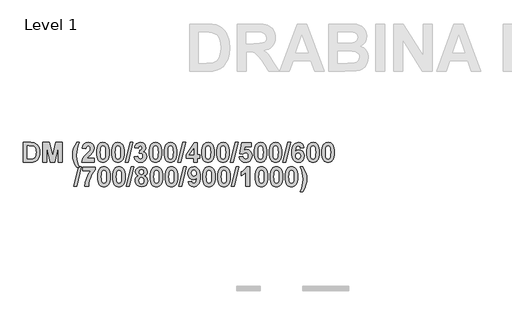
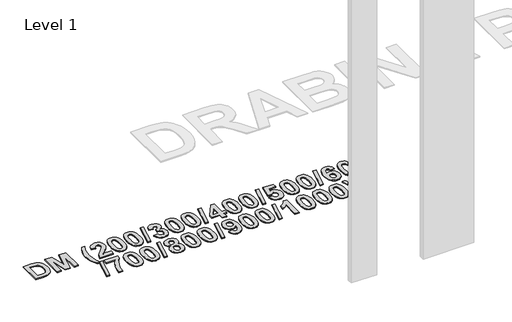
# One storey, part 36 of 42: 1 proxy.
"""IFC4 building model written with IfcOpenShell, lengths in millimetres."""

from ifc_helpers import new_model, si_unit, origin, origin_with_axes, place, context, project, spatial, polyline, outline, extrude, element, save

model = new_model("IFC4")

# Units and contexts
model_context = context("Model", 3, world=origin())
ifc_project = project(units=[si_unit("LENGTHUNIT", "METRE", prefix="MILLI")], contexts=[model_context])

# Site, building, storey
site = spatial("IfcSite", under=ifc_project)
building = spatial("IfcBuilding", under=site)
storey = spatial("IfcBuildingStorey", under=building, Name="Level 1", Elevation=0.0)

# Proxy
placement = place(None, origin())
element("IfcBuildingElementProxy", 1, Name="300mm Arial 2", ObjectType="300mm Arial 2", at=placement, inside=storey, context=model_context, shape_type="SweptSolid", body=[
    extrude(outline(polyline([(30599.2142754, 4855.9798729), (30693.6616516, 4855.9798729), (30721.8124101, 4854.7621154), (30742.3719528, 4851.1088428), (30763.2794263, 4841.9124012), (30780.960633, 4827.6077039), (30795.1071799, 4808.851075), (30805.4106738, 4786.2988381), (30811.6971494, 4758.9941839), (30813.7926412, 4725.9803028), (30811.8315772, 4696.6908619), (30805.9483849, 4671.70311), (30794.2768907, 4646.5255777), (30778.4934879, 4626.6618964), (30762.7100851, 4615.0536623), (30742.1821724, 4606.2921341), (30722.2077859, 4602.2593007), (30696.4450974, 4600.9150229), (30599.2142754, 4600.9150229), (30599.2142754, 4855.9798729)]), holes=[polyline([(30647.7980563, 4811.4447403), (30647.7980563, 4645.4501554), (30689.1701823, 4645.4501554), (30722.6980519, 4647.8540404), (30745.0605084, 4658.260332), (30753.1340827, 4667.9944848), (30759.5787086, 4682.4573323), (30763.8013224, 4702.3526437), (30765.2088603, 4728.3841878), (30763.8013224, 4754.0519861), (30759.5787086, 4772.9825804), (30752.8335971, 4786.8365492), (30743.8585659, 4797.2744709), (30732.4005746, 4804.5810161), (30718.2065826, 4809.0408553), (30672.7225481, 4811.4447403), (30647.7980563, 4811.4447403)])]), origin_with_axes(), (0.0, 0.0, 1.0), 10.0),
    extrude(outline(polyline([(30854.2791254, 4600.9150229), (30854.2791254, 4855.9798729), (30937.5294583, 4855.9798729), (30977.7629019, 4682.0145114), (31017.9963455, 4855.9798729), (31101.2466785, 4855.9798729), (31101.2466785, 4600.9150229), (31052.6628976, 4600.9150229), (31050.6385734, 4801.7026801), (31006.2299611, 4600.9150229), (30949.3591029, 4600.9150229), (30904.8872305, 4801.7026801), (30902.8629063, 4600.9150229), (30854.2791254, 4600.9150229)])), origin_with_axes(), (0.0, 0.0, 1.0), 10.0),
    extrude(outline(polyline([(31323.9223412, 4532.0879999), (31291.5331539, 4532.0879999), (31268.8623043, 4571.7600098), (31252.3435025, 4612.9660779), (31242.261419, 4654.2670363), (31238.9007245, 4694.2237168), (31243.0126331, 4741.6213703), (31255.3483587, 4786.3937283), (31271.5429524, 4822.6734137), (31291.5331539, 4855.9798729), (31323.9223412, 4855.9798729), (31306.3597472, 4808.7403697), (31295.2971317, 4769.1237124), (31289.4376621, 4732.2430558), (31287.4845055, 4693.2115547), (31292.1657552, 4636.562107), (31305.0075619, 4581.4941625), (31323.9223412, 4532.0879999)])), origin_with_axes(), (0.0, 0.0, 1.0), 10.0),
    extrude(outline(polyline([(31518.257465, 4649.4988038), (31518.257465, 4600.9150229), (31356.3115285, 4600.9150229), (31361.4830443, 4625.4204163), (31371.8102607, 4648.5815319), (31390.9938956, 4674.7633188), (31422.7346665, 4708.3307261), (31460.3111846, 4749.0702507), (31467.3330592, 4763.7782313), (31469.6736841, 4778.2964315), (31467.7047125, 4792.4429784), (31461.7977977, 4802.8729925), (31452.4273907, 4809.3018034), (31440.0679425, 4811.4447403), (31427.795477, 4809.3334335), (31418.3064573, 4802.9995128), (31411.917184, 4791.778747), (31408.9439579, 4775.0069046), (31360.3601769, 4779.4351138), (31368.9635548, 4814.5840244), (31376.5864006, 4827.8231838), (31386.4233511, 4838.1721459), (31411.0473572, 4851.5279411), (31441.1433648, 4855.9798729), (31473.2795115, 4850.99023), (31497.6979223, 4836.0213014), (31513.1175793, 4813.6351224), (31518.257465, 4786.3937283), (31512.6273133, 4754.2575815), (31494.7879562, 4722.3112151), (31464.5812435, 4690.4281089), (31436.8416758, 4662.7834314), (31427.7322169, 4649.4988038), (31518.257465, 4649.4988038)])), origin_with_axes(), (0.0, 0.0, 1.0), 10.0),
    extrude(outline(polyline([(31631.6196206, 4855.9798729), (31648.7512549, 4854.3351095), (31663.8981026, 4849.4008192), (31677.0601637, 4841.1770021), (31688.2374382, 4829.6636582), (31698.8928166, 4811.5356768), (31706.5038012, 4788.2757172), (31711.0703919, 4759.8837795), (31712.5925888, 4726.3598635), (31711.0624844, 4692.8675777), (31706.4721711, 4664.4440099), (31698.8216489, 4641.0891601), (31688.1109179, 4622.8030284), (31676.9889961, 4611.4557423), (31663.8664726, 4603.350538), (31648.7433474, 4598.4874153), (31631.6196206, 4596.8663745), (31614.312044, 4598.6455657), (31598.7638898, 4603.9831393), (31584.975158, 4612.8790953), (31572.9458486, 4625.3334336), (31563.1899502, 4642.3543627), (31556.2214514, 4664.9500909), (31552.0403521, 4693.1206182), (31550.6466523, 4726.8659446), (31552.1767567, 4760.1921726), (31556.76707, 4788.4971277), (31564.4175922, 4811.7808098), (31575.1283232, 4830.043219), (31586.250245, 4841.3905051), (31599.3727686, 4849.4957094), (31614.4958937, 4854.358832), (31631.6196206, 4855.9798729)]), holes=[polyline([(31631.6196206, 4811.4447403), (31615.4250269, 4806.0992592), (31609.0990138, 4798.6266562), (31604.417764, 4786.8998093), (31600.527266, 4762.7502542), (31599.2304333, 4726.3598635), (31600.3849307, 4690.4518314), (31603.8484229, 4667.875872), (31609.0752912, 4654.6228745), (31615.5199171, 4646.683728), (31631.6196206, 4641.401507), (31647.8142142, 4646.7469881), (31654.1402274, 4654.2195912), (31658.8214771, 4665.946438), (31662.7119752, 4689.9694729), (31664.0088079, 4726.3598635), (31662.8543105, 4762.2283581), (31659.3908183, 4784.812225), (31654.1639499, 4798.1047601), (31647.719324, 4806.0992592), (31631.6196206, 4811.4447403)])]), origin_with_axes(), (0.0, 0.0, 1.0), 10.0),
    extrude(outline(polyline([(31825.9547444, 4855.9798729), (31843.0863787, 4854.3351095), (31858.2332264, 4849.4008192), (31871.3952875, 4841.1770021), (31882.572562, 4829.6636582), (31893.2279404, 4811.5356768), (31900.838925, 4788.2757172), (31905.4055157, 4759.8837795), (31906.9277126, 4726.3598635), (31905.3976082, 4692.8675777), (31900.8072949, 4664.4440099), (31893.1567727, 4641.0891601), (31882.4460417, 4622.8030284), (31871.3241199, 4611.4557423), (31858.2015964, 4603.350538), (31843.0784712, 4598.4874153), (31825.9547444, 4596.8663745), (31808.6471678, 4598.6455657), (31793.0990136, 4603.9831393), (31779.3102818, 4612.8790953), (31767.2809724, 4625.3334336), (31757.525074, 4642.3543627), (31750.5565752, 4664.9500909), (31746.3754759, 4693.1206182), (31744.9817761, 4726.8659446), (31746.5118805, 4760.1921726), (31751.1021938, 4788.4971277), (31758.752716, 4811.7808098), (31769.463447, 4830.043219), (31780.5853688, 4841.3905051), (31793.7078924, 4849.4957094), (31808.8310175, 4854.358832), (31825.9547444, 4855.9798729)]), holes=[polyline([(31825.9547444, 4811.4447403), (31809.7601507, 4806.0992592), (31803.4341376, 4798.6266562), (31798.7528878, 4786.8998093), (31794.8623898, 4762.7502542), (31793.5655571, 4726.3598635), (31794.7200545, 4690.4518314), (31798.1835467, 4667.875872), (31803.410415, 4654.6228745), (31809.8550409, 4646.683728), (31825.9547444, 4641.401507), (31842.149338, 4646.7469881), (31848.4753512, 4654.2195912), (31853.1566009, 4665.946438), (31857.047099, 4689.9694729), (31858.3439317, 4726.3598635), (31857.1894343, 4762.2283581), (31853.7259421, 4784.812225), (31848.4990737, 4798.1047601), (31842.0544478, 4806.0992592), (31825.9547444, 4811.4447403)])]), origin_with_axes(), (0.0, 0.0, 1.0), 10.0),
    extrude(outline(polyline([(31922.2366644, 4600.9150229), (31982.9663906, 4855.9798729), (32020.2898682, 4855.9798729), (31959.560142, 4600.9150229), (31922.2366644, 4600.9150229)])), origin_with_axes(), (0.0, 0.0, 1.0), 10.0),
    extrude(outline(polyline([(32036.4844618, 4672.209191), (32085.0682428, 4677.8393427), (32088.8164055, 4662.2140903), (32096.0122455, 4650.7640065), (32105.865011, 4643.7421319), (32117.5839503, 4641.401507), (32130.1569014, 4644.0821551), (32140.547378, 4652.1240993), (32147.5218075, 4664.7049579), (32149.8466174, 4681.0023493), (32147.7194954, 4696.4220063), (32141.3381297, 4708.267466), (32131.8886475, 4715.8112366), (32120.5571765, 4718.3258269), (32101.2628364, 4714.7199994), (32105.5012652, 4754.7636626), (32119.3315115, 4756.5033162), (32129.445225, 4762.7344391), (32135.6368103, 4772.6030196), (32137.7006721, 4785.2550459), (32136.1587064, 4796.0013608), (32131.5328093, 4804.3279756), (32124.3448769, 4809.6655491), (32115.1168052, 4811.4447403), (32105.7305832, 4809.3808786), (32097.8151592, 4803.1892932), (32092.0505798, 4793.0281346), (32089.1168912, 4779.055553), (32040.5331102, 4786.3304682), (32046.0920943, 4808.0682308), (32053.912628, 4824.9507784), (32064.6352203, 4837.8637527), (32078.9003799, 4847.6927957), (32095.8936328, 4853.9081036), (32114.8005045, 4855.9798729), (32145.4500382, 4850.239016), (32158.2364923, 4843.0629448), (32169.3307378, 4833.0164452), (32182.0460243, 4812.9946136), (32186.2844531, 4790.5056368), (32184.0110421, 4774.56013), (32177.1908092, 4760.3147391), (32165.8237543, 4747.7694643), (32149.9098775, 4736.9243055), (32169.7735588, 4729.3726273), (32185.2090308, 4716.0800922), (32195.1250564, 4698.2170126), (32198.4303983, 4676.9537009), (32192.5709286, 4646.1855545), (32174.9925196, 4620.3042532), (32162.5559731, 4610.0501812), (32148.6842124, 4602.7258442), (32116.6350484, 4596.8663745), (32086.372983, 4602.0774278), (32061.7568843, 4617.7105878), (32044.5422211, 4641.7573453), (32036.4844618, 4672.209191)])), origin_with_axes(), (0.0, 0.0, 1.0), 10.0),
    extrude(outline(polyline([(32311.7925539, 4855.9798729), (32328.9241882, 4854.3351095), (32344.0710359, 4849.4008192), (32357.233097, 4841.1770021), (32368.4103715, 4829.6636582), (32379.0657499, 4811.5356768), (32386.6767345, 4788.2757172), (32391.2433252, 4759.8837795), (32392.7655221, 4726.3598635), (32391.2354177, 4692.8675777), (32386.6451044, 4664.4440099), (32378.9945822, 4641.0891601), (32368.2838512, 4622.8030284), (32357.1619294, 4611.4557423), (32344.0394059, 4603.350538), (32328.9162807, 4598.4874153), (32311.7925539, 4596.8663745), (32294.4849773, 4598.6455657), (32278.9368231, 4603.9831393), (32265.1480913, 4612.8790953), (32253.1187819, 4625.3334336), (32243.3628836, 4642.3543627), (32236.3943847, 4664.9500909), (32232.2132854, 4693.1206182), (32230.8195856, 4726.8659446), (32232.34969, 4760.1921726), (32236.9400033, 4788.4971277), (32244.5905255, 4811.7808098), (32255.3012565, 4830.043219), (32266.4231783, 4841.3905051), (32279.5457019, 4849.4957094), (32294.668827, 4854.358832), (32311.7925539, 4855.9798729)]), holes=[polyline([(32311.7925539, 4811.4447403), (32295.5979602, 4806.0992592), (32289.2719471, 4798.6266562), (32284.5906973, 4786.8998093), (32280.7001993, 4762.7502542), (32279.4033666, 4726.3598635), (32280.557864, 4690.4518314), (32284.0213562, 4667.875872), (32289.2482245, 4654.6228745), (32295.6928504, 4646.683728), (32311.7925539, 4641.401507), (32327.9871475, 4646.7469881), (32334.3131607, 4654.2195912), (32338.9944104, 4665.946438), (32342.8849085, 4689.9694729), (32344.1817412, 4726.3598635), (32343.0272438, 4762.2283581), (32339.5637516, 4784.812225), (32334.3368832, 4798.1047601), (32327.8922573, 4806.0992592), (32311.7925539, 4811.4447403)])]), origin_with_axes(), (0.0, 0.0, 1.0), 10.0),
    extrude(outline(polyline([(32506.1276777, 4855.9798729), (32523.259312, 4854.3351095), (32538.4061597, 4849.4008192), (32551.5682208, 4841.1770021), (32562.7454953, 4829.6636582), (32573.4008737, 4811.5356768), (32581.0118583, 4788.2757172), (32585.578449, 4759.8837795), (32587.1006459, 4726.3598635), (32585.5705415, 4692.8675777), (32580.9802282, 4664.4440099), (32573.3297061, 4641.0891601), (32562.618975, 4622.8030284), (32551.4970532, 4611.4557423), (32538.3745297, 4603.350538), (32523.2514045, 4598.4874153), (32506.1276777, 4596.8663745), (32488.8201011, 4598.6455657), (32473.2719469, 4603.9831393), (32459.4832151, 4612.8790953), (32447.4539057, 4625.3334336), (32437.6980074, 4642.3543627), (32430.7295085, 4664.9500909), (32426.5484092, 4693.1206182), (32425.1547094, 4726.8659446), (32426.6848138, 4760.1921726), (32431.2751271, 4788.4971277), (32438.9256493, 4811.7808098), (32449.6363803, 4830.043219), (32460.7583021, 4841.3905051), (32473.8808257, 4849.4957094), (32489.0039508, 4854.358832), (32506.1276777, 4855.9798729)]), holes=[polyline([(32506.1276777, 4811.4447403), (32489.933084, 4806.0992592), (32483.6070709, 4798.6266562), (32478.9258211, 4786.8998093), (32475.0353231, 4762.7502542), (32473.7384904, 4726.3598635), (32474.8929878, 4690.4518314), (32478.35648, 4667.875872), (32483.5833483, 4654.6228745), (32490.0279742, 4646.683728), (32506.1276777, 4641.401507), (32522.3222713, 4646.7469881), (32528.6482845, 4654.2195912), (32533.3295342, 4665.946438), (32537.2200323, 4689.9694729), (32538.516865, 4726.3598635), (32537.3623676, 4762.2283581), (32533.8988754, 4784.812225), (32528.672007, 4798.1047601), (32522.2273811, 4806.0992592), (32506.1276777, 4811.4447403)])]), origin_with_axes(), (0.0, 0.0, 1.0), 10.0),
    extrude(outline(polyline([(32602.4095977, 4600.9150229), (32663.1393239, 4855.9798729), (32700.4628015, 4855.9798729), (32639.7330753, 4600.9150229), (32602.4095977, 4600.9150229)])), origin_with_axes(), (0.0, 0.0, 1.0), 10.0),
    extrude(outline(polyline([(32805.7276602, 4600.9150229), (32805.7276602, 4653.5474523), (32708.5600983, 4653.5474523), (32708.5600983, 4693.844156), (32812.1801936, 4851.9312245), (32854.3114411, 4851.9312245), (32854.3114411, 4694.0339364), (32886.7006284, 4694.0339364), (32886.7006284, 4653.5474523), (32854.3114411, 4653.5474523), (32854.3114411, 4600.9150229), (32805.7276602, 4600.9150229)]), holes=[polyline([(32805.7276602, 4694.0339364), (32805.7276602, 4776.9047086), (32751.4504674, 4694.0339364), (32805.7276602, 4694.0339364)])]), origin_with_axes(), (0.0, 0.0, 1.0), 10.0),
    extrude(outline(polyline([(32991.9654872, 4855.9798729), (33009.0971215, 4854.3351095), (33024.2439692, 4849.4008192), (33037.4060303, 4841.1770021), (33048.5833048, 4829.6636582), (33059.2386832, 4811.5356768), (33066.8496678, 4788.2757172), (33071.4162585, 4759.8837795), (33072.9384554, 4726.3598635), (33071.408351, 4692.8675777), (33066.8180377, 4664.4440099), (33059.1675156, 4641.0891601), (33048.4567845, 4622.8030284), (33037.3348627, 4611.4557423), (33024.2123392, 4603.350538), (33009.089214, 4598.4874153), (32991.9654872, 4596.8663745), (32974.6579106, 4598.6455657), (32959.1097564, 4603.9831393), (32945.3210246, 4612.8790953), (32933.2917153, 4625.3334336), (32923.5358169, 4642.3543627), (32916.567318, 4664.9500909), (32912.3862187, 4693.1206182), (32910.9925189, 4726.8659446), (32912.5226233, 4760.1921726), (32917.1129366, 4788.4971277), (32924.7634588, 4811.7808098), (32935.4741898, 4830.043219), (32946.5961116, 4841.3905051), (32959.7186352, 4849.4957094), (32974.8417603, 4854.358832), (32991.9654872, 4855.9798729)]), holes=[polyline([(32991.9654872, 4811.4447403), (32975.7708935, 4806.0992592), (32969.4448804, 4798.6266562), (32964.7636306, 4786.8998093), (32960.8731326, 4762.7502542), (32959.5762999, 4726.3598635), (32960.7307973, 4690.4518314), (32964.1942895, 4667.875872), (32969.4211578, 4654.6228745), (32975.8657837, 4646.683728), (32991.9654872, 4641.401507), (33008.1600808, 4646.7469881), (33014.486094, 4654.2195912), (33019.1673437, 4665.946438), (33023.0578418, 4689.9694729), (33024.3546745, 4726.3598635), (33023.2001771, 4762.2283581), (33019.7366849, 4784.812225), (33014.5098165, 4798.1047601), (33008.0651906, 4806.0992592), (32991.9654872, 4811.4447403)])]), origin_with_axes(), (0.0, 0.0, 1.0), 10.0),
    extrude(outline(polyline([(33186.300611, 4855.9798729), (33203.4322453, 4854.3351095), (33218.579093, 4849.4008192), (33231.7411541, 4841.1770021), (33242.9184286, 4829.6636582), (33253.573807, 4811.5356768), (33261.1847916, 4788.2757172), (33265.7513823, 4759.8837795), (33267.2735792, 4726.3598635), (33265.7434748, 4692.8675777), (33261.1531615, 4664.4440099), (33253.5026394, 4641.0891601), (33242.7919083, 4622.8030284), (33231.6699865, 4611.4557423), (33218.547463, 4603.350538), (33203.4243378, 4598.4874153), (33186.300611, 4596.8663745), (33168.9930344, 4598.6455657), (33153.4448802, 4603.9831393), (33139.6561484, 4612.8790953), (33127.6268391, 4625.3334336), (33117.8709407, 4642.3543627), (33110.9024418, 4664.9500909), (33106.7213425, 4693.1206182), (33105.3276427, 4726.8659446), (33106.8577471, 4760.1921726), (33111.4480604, 4788.4971277), (33119.0985826, 4811.7808098), (33129.8093136, 4830.043219), (33140.9312354, 4841.3905051), (33154.053759, 4849.4957094), (33169.1768841, 4854.358832), (33186.300611, 4855.9798729)]), holes=[polyline([(33186.300611, 4811.4447403), (33170.1060173, 4806.0992592), (33163.7800042, 4798.6266562), (33159.0987544, 4786.8998093), (33155.2082564, 4762.7502542), (33153.9114237, 4726.3598635), (33155.0659211, 4690.4518314), (33158.5294133, 4667.875872), (33163.7562816, 4654.6228745), (33170.2009075, 4646.683728), (33186.300611, 4641.401507), (33202.4952046, 4646.7469881), (33208.8212178, 4654.2195912), (33213.5024675, 4665.946438), (33217.3929656, 4689.9694729), (33218.6897983, 4726.3598635), (33217.5353009, 4762.2283581), (33214.0718087, 4784.812225), (33208.8449403, 4798.1047601), (33202.4003144, 4806.0992592), (33186.300611, 4811.4447403)])]), origin_with_axes(), (0.0, 0.0, 1.0), 10.0),
    extrude(outline(polyline([(33282.582531, 4600.9150229), (33343.3122572, 4855.9798729), (33380.6357348, 4855.9798729), (33319.9060086, 4600.9150229), (33282.582531, 4600.9150229)])), origin_with_axes(), (0.0, 0.0, 1.0), 10.0),
    extrude(outline(polyline([(33396.8303284, 4672.7152721), (33441.365461, 4677.8393427), (33445.5089996, 4662.7676164), (33453.7644467, 4651.2068274), (33464.8665998, 4643.8528371), (33477.5502561, 4641.401507), (33491.7442481, 4644.0030799), (33503.5818002, 4651.8077986), (33511.5762993, 4664.8472932), (33514.2411324, 4683.1531938), (33511.7660797, 4700.3125044), (33504.3409218, 4712.5691549), (33492.9461906, 4719.9231452), (33478.5624182, 4722.3744753), (33459.7425291, 4717.3136648), (33443.0102244, 4702.1312332), (33400.8789768, 4708.3939862), (33429.2195157, 4851.9312245), (33550.6789681, 4851.9312245), (33550.6789681, 4803.3474435), (33468.5040573, 4803.3474435), (33458.698737, 4756.9777672), (33474.1816541, 4764.4266476), (33490.012502, 4766.9096078), (33518.1316305, 4761.1608434), (33541.6327693, 4743.91455), (33557.5268773, 4717.4955376), (33562.8249133, 4684.228616), (33558.4125192, 4655.3029209), (33545.1753367, 4629.6351226), (33531.9579229, 4615.2987953), (33516.4077919, 4605.0585615), (33498.5249435, 4598.9144212), (33478.3093777, 4596.8663745), (33447.3040058, 4602.0062602), (33422.608832, 4617.4259172), (33405.3941687, 4641.5280273), (33396.8303284, 4672.7152721)])), origin_with_axes(), (0.0, 0.0, 1.0), 10.0),
    extrude(outline(polyline([(33672.1384205, 4855.9798729), (33689.2700548, 4854.3351095), (33704.4169025, 4849.4008192), (33717.5789636, 4841.1770021), (33728.7562381, 4829.6636582), (33739.4116165, 4811.5356768), (33747.0226011, 4788.2757172), (33751.5891918, 4759.8837795), (33753.1113887, 4726.3598635), (33751.5812843, 4692.8675777), (33746.990971, 4664.4440099), (33739.3404489, 4641.0891601), (33728.6297179, 4622.8030284), (33717.507796, 4611.4557423), (33704.3852725, 4603.350538), (33689.2621473, 4598.4874153), (33672.1384205, 4596.8663745), (33654.8308439, 4598.6455657), (33639.2826897, 4603.9831393), (33625.4939579, 4612.8790953), (33613.4646486, 4625.3334336), (33603.7087502, 4642.3543627), (33596.7402513, 4664.9500909), (33592.559152, 4693.1206182), (33591.1654522, 4726.8659446), (33592.6955567, 4760.1921726), (33597.2858699, 4788.4971277), (33604.9363921, 4811.7808098), (33615.6471231, 4830.043219), (33626.769045, 4841.3905051), (33639.8915685, 4849.4957094), (33655.0146936, 4854.358832), (33672.1384205, 4855.9798729)]), holes=[polyline([(33672.1384205, 4811.4447403), (33655.9438268, 4806.0992592), (33649.6178137, 4798.6266562), (33644.936564, 4786.8998093), (33641.0460659, 4762.7502542), (33639.7492332, 4726.3598635), (33640.9037306, 4690.4518314), (33644.3672228, 4667.875872), (33649.5940911, 4654.6228745), (33656.038717, 4646.683728), (33672.1384205, 4641.401507), (33688.3330141, 4646.7469881), (33694.6590273, 4654.2195912), (33699.340277, 4665.946438), (33703.2307751, 4689.9694729), (33704.5276078, 4726.3598635), (33703.3731104, 4762.2283581), (33699.9096182, 4784.812225), (33694.6827498, 4798.1047601), (33688.2381239, 4806.0992592), (33672.1384205, 4811.4447403)])]), origin_with_axes(), (0.0, 0.0, 1.0), 10.0),
    extrude(outline(polyline([(33866.4735443, 4855.9798729), (33883.6051786, 4854.3351095), (33898.7520263, 4849.4008192), (33911.9140874, 4841.1770021), (33923.0913619, 4829.6636582), (33933.7467403, 4811.5356768), (33941.3577249, 4788.2757172), (33945.9243156, 4759.8837795), (33947.4465125, 4726.3598635), (33945.9164081, 4692.8675777), (33941.3260948, 4664.4440099), (33933.6755727, 4641.0891601), (33922.9648417, 4622.8030284), (33911.8429198, 4611.4557423), (33898.7203963, 4603.350538), (33883.5972711, 4598.4874153), (33866.4735443, 4596.8663745), (33849.1659677, 4598.6455657), (33833.6178135, 4603.9831393), (33819.8290817, 4612.8790953), (33807.7997724, 4625.3334336), (33798.043874, 4642.3543627), (33791.0753751, 4664.9500909), (33786.8942758, 4693.1206182), (33785.500576, 4726.8659446), (33787.0306805, 4760.1921726), (33791.6209937, 4788.4971277), (33799.2715159, 4811.7808098), (33809.9822469, 4830.043219), (33821.1041688, 4841.3905051), (33834.2266923, 4849.4957094), (33849.3498174, 4854.358832), (33866.4735443, 4855.9798729)]), holes=[polyline([(33866.4735443, 4811.4447403), (33850.2789506, 4806.0992592), (33843.9529375, 4798.6266562), (33839.2716878, 4786.8998093), (33835.3811897, 4762.7502542), (33834.084357, 4726.3598635), (33835.2388544, 4690.4518314), (33838.7023466, 4667.875872), (33843.9292149, 4654.6228745), (33850.3738408, 4646.683728), (33866.4735443, 4641.401507), (33882.6681379, 4646.7469881), (33888.9941511, 4654.2195912), (33893.6754008, 4665.946438), (33897.5658989, 4689.9694729), (33898.8627316, 4726.3598635), (33897.7082342, 4762.2283581), (33894.244742, 4784.812225), (33889.0178736, 4798.1047601), (33882.5732477, 4806.0992592), (33866.4735443, 4811.4447403)])]), origin_with_axes(), (0.0, 0.0, 1.0), 10.0),
    extrude(outline(polyline([(33962.7554643, 4600.9150229), (34023.4851905, 4855.9798729), (34060.8086681, 4855.9798729), (34000.0789419, 4600.9150229), (33962.7554643, 4600.9150229)])), origin_with_axes(), (0.0, 0.0, 1.0), 10.0),
    extrude(outline(polyline([(34234.9005498, 4788.2915322), (34186.3167689, 4783.1042015), (34183.3435427, 4795.7008751), (34177.713391, 4804.517756), (34169.7109844, 4809.7129942), (34159.6209934, 4811.4447403), (34146.0200651, 4808.0840459), (34134.6965016, 4798.0019624), (34126.3936094, 4777.1656566), (34121.8546949, 4741.5422951), (34141.8765265, 4757.5312933), (34166.2633072, 4762.8609594), (34194.0898575, 4757.1675476), (34217.5989039, 4740.0873121), (34233.6116246, 4714.0083229), (34238.9491982, 4681.31865), (34233.4930119, 4646.8814159), (34226.672779, 4632.4917129), (34217.1244529, 4619.9879525), (34205.4331898, 4609.8722621), (34192.1841461, 4602.646769), (34161.0127163, 4596.8663745), (34143.4817524, 4598.7325484), (34127.5797368, 4604.33107), (34113.3066697, 4613.6619394), (34100.6625509, 4626.7251565), (34090.3116119, 4644.0386637), (34082.918084, 4666.1204034), (34078.4819673, 4692.9703754), (34077.0032617, 4724.5885799), (34078.5472043, 4757.0410273), (34083.1790321, 4784.6224446), (34090.898745, 4807.3328318), (34101.7063431, 4825.1721889), (34114.9810863, 4838.6505506), (34130.1022346, 4848.2779519), (34147.0697879, 4854.0543926), (34165.8837464, 4855.9798729), (34191.203614, 4851.6465539), (34211.7473417, 4838.6465969), (34226.6134726, 4817.3911927), (34234.9005498, 4788.2915322)]), holes=[polyline([(34125.5870427, 4682.3940722), (34128.2123381, 4664.9738135), (34136.0882245, 4652.0608392), (34147.3327129, 4644.0663401), (34160.0638143, 4641.401507), (34171.956719, 4643.5839816), (34181.6987793, 4650.1314052), (34188.1987578, 4661.6605641), (34190.3654173, 4678.7882447), (34188.0326999, 4696.5406191), (34181.0345479, 4708.8051771), (34170.5412736, 4715.9456644), (34157.7231894, 4718.3258269), (34145.2846661, 4716.0484621), (34134.9179121, 4709.2163679), (34127.91976, 4697.9560645), (34125.5870427, 4682.3940722)])]), origin_with_axes(), (0.0, 0.0, 1.0), 10.0),
    extrude(outline(polyline([(34352.3113538, 4855.9798729), (34369.4429881, 4854.3351095), (34384.5898358, 4849.4008192), (34397.7518969, 4841.1770021), (34408.9291714, 4829.6636582), (34419.5845498, 4811.5356768), (34427.1955344, 4788.2757172), (34431.7621251, 4759.8837795), (34433.284322, 4726.3598635), (34431.7542176, 4692.8675777), (34427.1639043, 4664.4440099), (34419.5133822, 4641.0891601), (34408.8026512, 4622.8030284), (34397.6807293, 4611.4557423), (34384.5582058, 4603.350538), (34369.4350806, 4598.4874153), (34352.3113538, 4596.8663745), (34335.0037772, 4598.6455657), (34319.455623, 4603.9831393), (34305.6668912, 4612.8790953), (34293.6375819, 4625.3334336), (34283.8816835, 4642.3543627), (34276.9131846, 4664.9500909), (34272.7320853, 4693.1206182), (34271.3383855, 4726.8659446), (34272.86849, 4760.1921726), (34277.4588032, 4788.4971277), (34285.1093254, 4811.7808098), (34295.8200564, 4830.043219), (34306.9419783, 4841.3905051), (34320.0645018, 4849.4957094), (34335.1876269, 4854.358832), (34352.3113538, 4855.9798729)]), holes=[polyline([(34352.3113538, 4811.4447403), (34336.1167601, 4806.0992592), (34329.790747, 4798.6266562), (34325.1094973, 4786.8998093), (34321.2189992, 4762.7502542), (34319.9221665, 4726.3598635), (34321.0766639, 4690.4518314), (34324.5401561, 4667.875872), (34329.7670244, 4654.6228745), (34336.2116503, 4646.683728), (34352.3113538, 4641.401507), (34368.5059474, 4646.7469881), (34374.8319606, 4654.2195912), (34379.5132103, 4665.946438), (34383.4037084, 4689.9694729), (34384.7005411, 4726.3598635), (34383.5460437, 4762.2283581), (34380.0825515, 4784.812225), (34374.8556831, 4798.1047601), (34368.4110572, 4806.0992592), (34352.3113538, 4811.4447403)])]), origin_with_axes(), (0.0, 0.0, 1.0), 10.0),
    extrude(outline(polyline([(34546.6464776, 4855.9798729), (34563.7781119, 4854.3351095), (34578.9249596, 4849.4008192), (34592.0870207, 4841.1770021), (34603.2642952, 4829.6636582), (34613.9196736, 4811.5356768), (34621.5306582, 4788.2757172), (34626.0972489, 4759.8837795), (34627.6194458, 4726.3598635), (34626.0893414, 4692.8675777), (34621.4990281, 4664.4440099), (34613.848506, 4641.0891601), (34603.137775, 4622.8030284), (34592.0158531, 4611.4557423), (34578.8933296, 4603.350538), (34563.7702044, 4598.4874153), (34546.6464776, 4596.8663745), (34529.338901, 4598.6455657), (34513.7907468, 4603.9831393), (34500.002015, 4612.8790953), (34487.9727057, 4625.3334336), (34478.2168073, 4642.3543627), (34471.2483084, 4664.9500909), (34467.0672091, 4693.1206182), (34465.6735093, 4726.8659446), (34467.2036138, 4760.1921726), (34471.793927, 4788.4971277), (34479.4444492, 4811.7808098), (34490.1551802, 4830.043219), (34501.2771021, 4841.3905051), (34514.3996256, 4849.4957094), (34529.5227507, 4854.358832), (34546.6464776, 4855.9798729)]), holes=[polyline([(34546.6464776, 4811.4447403), (34530.4518839, 4806.0992592), (34524.1258708, 4798.6266562), (34519.4446211, 4786.8998093), (34515.554123, 4762.7502542), (34514.2572903, 4726.3598635), (34515.4117877, 4690.4518314), (34518.8752799, 4667.875872), (34524.1021482, 4654.6228745), (34530.5467741, 4646.683728), (34546.6464776, 4641.401507), (34562.8410712, 4646.7469881), (34569.1670844, 4654.2195912), (34573.8483341, 4665.946438), (34577.7388322, 4689.9694729), (34579.0356649, 4726.3598635), (34577.8811675, 4762.2283581), (34574.4176753, 4784.812225), (34569.1908069, 4798.1047601), (34562.746181, 4806.0992592), (34546.6464776, 4811.4447403)])]), origin_with_axes(), (0.0, 0.0, 1.0), 10.0),
    extrude(outline(polyline([(31254.2096764, 4286.1366483), (31314.9394025, 4541.2014983), (31352.2628801, 4541.2014983), (31291.5331539, 4286.1366483), (31254.2096764, 4286.1366483)])), origin_with_axes(), (0.0, 0.0, 1.0), 10.0),
    extrude(outline(polyline([(31368.4574737, 4488.5690689), (31368.4574737, 4537.1528499), (31530.4034102, 4537.1528499), (31530.4034102, 4500.7150142), (31509.7252548, 4476.075193), (31488.6833536, 4442.6422135), (31469.9820772, 4403.6265274), (31456.3257963, 4362.2385864), (31448.0229041, 4321.9260677), (31445.3817936, 4286.1366483), (31396.7980126, 4286.1366483), (31402.973783, 4338.5872048), (31418.9706887, 4392.0657384), (31443.397007, 4443.1878321), (31474.8610148, 4488.5690689), (31368.4574737, 4488.5690689)])), origin_with_axes(), (0.0, 0.0, 1.0), 10.0),
    extrude(outline(polyline([(31643.7655658, 4541.2014983), (31660.8972001, 4539.5567349), (31676.0440479, 4534.6224446), (31689.206109, 4526.3986275), (31700.3833834, 4514.8852836), (31711.0387618, 4496.7573022), (31718.6497464, 4473.4973426), (31723.2163371, 4445.1054049), (31724.738534, 4411.5814889), (31723.2084296, 4378.0892031), (31718.6181163, 4349.6656353), (31710.9675942, 4326.3107855), (31700.2568632, 4308.0246538), (31689.1349413, 4296.6773677), (31676.0124178, 4288.5721634), (31660.8892926, 4283.7090407), (31643.7655658, 4282.0879999), (31626.4579892, 4283.8671911), (31610.909835, 4289.2047647), (31597.1211032, 4298.1007207), (31585.0917939, 4310.555059), (31575.3358955, 4327.5759881), (31568.3673966, 4350.1717163), (31564.1862973, 4378.3422436), (31562.7925975, 4412.08757), (31564.322702, 4445.413798), (31568.9130153, 4473.7187531), (31576.5635374, 4497.0024352), (31587.2742684, 4515.2648444), (31598.3961903, 4526.6121305), (31611.5187138, 4534.7173348), (31626.641839, 4539.5804574), (31643.7655658, 4541.2014983)]), holes=[polyline([(31643.7655658, 4496.6663657), (31627.5709721, 4491.3208846), (31621.244959, 4483.8482816), (31616.5637093, 4472.1214347), (31612.6732112, 4447.9718796), (31611.3763785, 4411.5814889), (31612.5308759, 4375.6734568), (31615.9943681, 4353.0974974), (31621.2212365, 4339.8444999), (31627.6658623, 4331.9053534), (31643.7655658, 4326.6231324), (31659.9601594, 4331.9686135), (31666.2861726, 4339.4412166), (31670.9674223, 4351.1680634), (31674.8579204, 4375.1910983), (31676.1547531, 4411.5814889), (31675.0002557, 4447.4499835), (31671.5367635, 4470.0338504), (31666.3098951, 4483.3263855), (31659.8652692, 4491.3208846), (31643.7655658, 4496.6663657)])]), origin_with_axes(), (0.0, 0.0, 1.0), 10.0),
    extrude(outline(polyline([(31838.1006896, 4541.2014983), (31855.2323239, 4539.5567349), (31870.3791717, 4534.6224446), (31883.5412328, 4526.3986275), (31894.7185072, 4514.8852836), (31905.3738856, 4496.7573022), (31912.9848702, 4473.4973426), (31917.5514609, 4445.1054049), (31919.0736578, 4411.5814889), (31917.5435534, 4378.0892031), (31912.9532401, 4349.6656353), (31905.302718, 4326.3107855), (31894.591987, 4308.0246538), (31883.4700651, 4296.6773677), (31870.3475416, 4288.5721634), (31855.2244164, 4283.7090407), (31838.1006896, 4282.0879999), (31820.793113, 4283.8671911), (31805.2449588, 4289.2047647), (31791.4562271, 4298.1007207), (31779.4269177, 4310.555059), (31769.6710193, 4327.5759881), (31762.7025204, 4350.1717163), (31758.5214211, 4378.3422436), (31757.1277213, 4412.08757), (31758.6578258, 4445.413798), (31763.2481391, 4473.7187531), (31770.8986612, 4497.0024352), (31781.6093922, 4515.2648444), (31792.7313141, 4526.6121305), (31805.8538376, 4534.7173348), (31820.9769628, 4539.5804574), (31838.1006896, 4541.2014983)]), holes=[polyline([(31838.1006896, 4496.6663657), (31821.9060959, 4491.3208846), (31815.5800828, 4483.8482816), (31810.8988331, 4472.1214347), (31807.008335, 4447.9718796), (31805.7115023, 4411.5814889), (31806.8659997, 4375.6734568), (31810.3294919, 4353.0974974), (31815.5563603, 4339.8444999), (31822.0009861, 4331.9053534), (31838.1006896, 4326.6231324), (31854.2952832, 4331.9686135), (31860.6212964, 4339.4412166), (31865.3025461, 4351.1680634), (31869.1930442, 4375.1910983), (31870.4898769, 4411.5814889), (31869.3353795, 4447.4499835), (31865.8718873, 4470.0338504), (31860.6450189, 4483.3263855), (31854.200393, 4491.3208846), (31838.1006896, 4496.6663657)])]), origin_with_axes(), (0.0, 0.0, 1.0), 10.0),
    extrude(outline(polyline([(31934.3826097, 4286.1366483), (31995.1123358, 4541.2014983), (32032.4358134, 4541.2014983), (31971.7060872, 4286.1366483), (31934.3826097, 4286.1366483)])), origin_with_axes(), (0.0, 0.0, 1.0), 10.0),
    extrude(outline(polyline([(32091.2677356, 4422.9683126), (32073.7921243, 4432.4415173), (32061.8517745, 4444.9195782), (32054.9722352, 4459.5801137), (32052.6790555, 4475.600742), (32057.6845134, 4501.5927485), (32072.7008871, 4522.6346497), (32096.9374249, 4536.5597861), (32129.6033753, 4541.2014983), (32162.0716378, 4536.5597861), (32186.3477132, 4522.6346497), (32201.4826997, 4501.5927485), (32206.5276951, 4475.600742), (32203.9735673, 4458.8605297), (32196.3111839, 4444.0655664), (32184.0149959, 4431.8800836), (32167.5594542, 4422.9683126), (32186.1025802, 4412.562021), (32199.6007107, 4398.2968613), (32207.8324353, 4380.8528801), (32210.5763435, 4360.9101237), (32205.1359722, 4329.1535377), (32198.3355081, 4315.7423898), (32188.8148583, 4303.9760054), (32177.0366126, 4294.400003), (32163.4633607, 4287.5600012), (32130.9318381, 4282.0879999), (32100.1557841, 4286.6110993), (32075.0098819, 4300.1803975), (32063.4688616, 4311.863753), (32055.2252758, 4325.5318951), (32050.2791242, 4341.1848239), (32048.630407, 4358.8225393), (32051.2003499, 4378.4885327), (32058.9101784, 4396.4939476), (32072.1394534, 4411.7001017), (32091.2677356, 4422.9683126)]), holes=[polyline([(32101.2628364, 4472.6275158), (32103.1843629, 4458.9396049), (32108.9489424, 4448.6202959), (32117.9081585, 4442.14404), (32129.4135949, 4439.985288), (32141.0850892, 4442.1677625), (32150.162918, 4448.7151861), (32155.9986651, 4459.1056627), (32157.9439142, 4472.8172962), (32156.0223877, 4485.8646983), (32150.2578082, 4496.0337644), (32141.3302222, 4502.581188), (32129.919676, 4504.7636626), (32118.1532915, 4502.565373), (32109.0438326, 4495.9705043), (32103.2080855, 4485.738178), (32101.2628364, 4472.6275158)]), polyline([(32097.214188, 4362.9344479), (32099.5706279, 4344.2964316), (32106.6399476, 4330.26059), (32117.2360196, 4321.4595242), (32130.1727165, 4318.5258356), (32142.7693902, 4321.348819), (32152.9779939, 4329.8177691), (32159.7389204, 4343.6005702), (32161.9925626, 4362.3651067), (32159.6993828, 4379.136949), (32152.8198435, 4392.2555188), (32142.4135519, 4400.7244689), (32129.5401152, 4403.5474523), (32115.2986781, 4400.3449081), (32105.2165946, 4390.7372756), (32099.2147897, 4377.3814804), (32097.214188, 4362.9344479)])]), origin_with_axes(), (0.0, 0.0, 1.0), 10.0),
    extrude(outline(polyline([(32323.9384991, 4541.2014983), (32341.0701334, 4539.5567349), (32356.2169812, 4534.6224446), (32369.3790423, 4526.3986275), (32380.5563167, 4514.8852836), (32391.2116951, 4496.7573022), (32398.8226797, 4473.4973426), (32403.3892704, 4445.1054049), (32404.9114674, 4411.5814889), (32403.3813629, 4378.0892031), (32398.7910496, 4349.6656353), (32391.1405275, 4326.3107855), (32380.4297965, 4308.0246538), (32369.3078746, 4296.6773677), (32356.1853511, 4288.5721634), (32341.0622259, 4283.7090407), (32323.9384991, 4282.0879999), (32306.6309225, 4283.8671911), (32291.0827683, 4289.2047647), (32277.2940366, 4298.1007207), (32265.2647272, 4310.555059), (32255.5088288, 4327.5759881), (32248.5403299, 4350.1717163), (32244.3592306, 4378.3422436), (32242.9655308, 4412.08757), (32244.4956353, 4445.413798), (32249.0859486, 4473.7187531), (32256.7364707, 4497.0024352), (32267.4472017, 4515.2648444), (32278.5691236, 4526.6121305), (32291.6916471, 4534.7173348), (32306.8147723, 4539.5804574), (32323.9384991, 4541.2014983)]), holes=[polyline([(32323.9384991, 4496.6663657), (32307.7439054, 4491.3208846), (32301.4178923, 4483.8482816), (32296.7366426, 4472.1214347), (32292.8461445, 4447.9718796), (32291.5493118, 4411.5814889), (32292.7038092, 4375.6734568), (32296.1673014, 4353.0974974), (32301.3941698, 4339.8444999), (32307.8387956, 4331.9053534), (32323.9384991, 4326.6231324), (32340.1330928, 4331.9686135), (32346.4591059, 4339.4412166), (32351.1403556, 4351.1680634), (32355.0308537, 4375.1910983), (32356.3276864, 4411.5814889), (32355.173189, 4447.4499835), (32351.7096968, 4470.0338504), (32346.4828284, 4483.3263855), (32340.0382026, 4491.3208846), (32323.9384991, 4496.6663657)])]), origin_with_axes(), (0.0, 0.0, 1.0), 10.0),
    extrude(outline(polyline([(32518.2736229, 4541.2014983), (32535.4052572, 4539.5567349), (32550.552105, 4534.6224446), (32563.7141661, 4526.3986275), (32574.8914405, 4514.8852836), (32585.5468189, 4496.7573022), (32593.1578035, 4473.4973426), (32597.7243942, 4445.1054049), (32599.2465912, 4411.5814889), (32597.7164867, 4378.0892031), (32593.1261734, 4349.6656353), (32585.4756513, 4326.3107855), (32574.7649203, 4308.0246538), (32563.6429984, 4296.6773677), (32550.5204749, 4288.5721634), (32535.3973497, 4283.7090407), (32518.2736229, 4282.0879999), (32500.9660463, 4283.8671911), (32485.4178921, 4289.2047647), (32471.6291604, 4298.1007207), (32459.599851, 4310.555059), (32449.8439526, 4327.5759881), (32442.8754537, 4350.1717163), (32438.6943544, 4378.3422436), (32437.3006547, 4412.08757), (32438.8307591, 4445.413798), (32443.4210724, 4473.7187531), (32451.0715945, 4497.0024352), (32461.7823255, 4515.2648444), (32472.9042474, 4526.6121305), (32486.0267709, 4534.7173348), (32501.1498961, 4539.5804574), (32518.2736229, 4541.2014983)]), holes=[polyline([(32518.2736229, 4496.6663657), (32502.0790293, 4491.3208846), (32495.7530161, 4483.8482816), (32491.0717664, 4472.1214347), (32487.1812683, 4447.9718796), (32485.8844356, 4411.5814889), (32487.038933, 4375.6734568), (32490.5024252, 4353.0974974), (32495.7292936, 4339.8444999), (32502.1739194, 4331.9053534), (32518.2736229, 4326.6231324), (32534.4682166, 4331.9686135), (32540.7942297, 4339.4412166), (32545.4754794, 4351.1680634), (32549.3659775, 4375.1910983), (32550.6628102, 4411.5814889), (32549.5083128, 4447.4499835), (32546.0448206, 4470.0338504), (32540.8179522, 4483.3263855), (32534.3733264, 4491.3208846), (32518.2736229, 4496.6663657)])]), origin_with_axes(), (0.0, 0.0, 1.0), 10.0),
    extrude(outline(polyline([(32614.555543, 4286.1366483), (32675.2852691, 4541.2014983), (32712.6087467, 4541.2014983), (32651.8790205, 4286.1366483), (32614.555543, 4286.1366483)])), origin_with_axes(), (0.0, 0.0, 1.0), 10.0),
    extrude(outline(polyline([(32732.8519888, 4349.7763405), (32781.4357697, 4354.9636713), (32784.4169034, 4342.4065352), (32790.0707777, 4333.5817469), (32798.175982, 4328.362786), (32808.511106, 4326.6231324), (32821.8589937, 4329.9838269), (32833.056037, 4340.0659103), (32841.3589292, 4360.854771), (32846.0243639, 4396.3357973), (32825.7336768, 4380.4891343), (32800.9198902, 4375.2069134), (32773.5203458, 4380.8766026), (32750.1536347, 4397.8856705), (32734.1409139, 4423.9883822), (32728.8033404, 4456.9390032), (32734.2832492, 4491.1548268), (32741.1331353, 4505.5049922), (32750.7229759, 4518.0166601), (32762.4320309, 4528.1600268), (32775.6395602, 4535.4052887), (32806.5500419, 4541.2014983), (32824.1640347, 4539.3373013), (32840.1253567, 4533.7447103), (32854.4340076, 4524.4237253), (32867.0899877, 4511.3743463), (32877.4409267, 4494.0549084), (32884.8344546, 4471.9237468), (32889.2705713, 4444.9808615), (32890.7492769, 4413.2262524), (32889.2033574, 4380.8588107), (32884.565599, 4353.3426304), (32876.8360017, 4330.6777115), (32866.0145655, 4312.8640538), (32852.7141228, 4299.3995302), (32837.5475063, 4289.7820134), (32820.5147159, 4284.0115033), (32801.6157516, 4282.0879999), (32775.773988, 4286.3264287), (32755.4358557, 4299.0417151), (32740.9967307, 4320.2022291), (32732.8519888, 4349.7763405)]), holes=[polyline([(32842.1654959, 4455.8003208), (32839.5560155, 4473.0466142), (32831.7275742, 4485.9437735), (32820.4830859, 4493.9857177), (32807.6254641, 4496.6663657), (32795.7009294, 4494.4680762), (32785.9904992, 4487.8732075), (32779.5379658, 4476.2807884), (32777.3871213, 4459.0898477), (32779.7277462, 4441.4798086), (32786.7496208, 4429.2626957), (32797.2666176, 4422.1222084), (32810.0926093, 4419.7420459), (32822.5627627, 4422.0273182), (32832.8978866, 4428.8831349), (32839.8485936, 4440.1829759), (32842.1654959, 4455.8003208)])]), origin_with_axes(), (0.0, 0.0, 1.0), 10.0),
    extrude(outline(polyline([(33004.1114324, 4541.2014983), (33021.2430668, 4539.5567349), (33036.3899145, 4534.6224446), (33049.5519756, 4526.3986275), (33060.72925, 4514.8852836), (33071.3846284, 4496.7573022), (33078.995613, 4473.4973426), (33083.5622037, 4445.1054049), (33085.0844007, 4411.5814889), (33083.5542962, 4378.0892031), (33078.9639829, 4349.6656353), (33071.3134608, 4326.3107855), (33060.6027298, 4308.0246538), (33049.4808079, 4296.6773677), (33036.3582844, 4288.5721634), (33021.2351592, 4283.7090407), (33004.1114324, 4282.0879999), (32986.8038558, 4283.8671911), (32971.2557016, 4289.2047647), (32957.4669699, 4298.1007207), (32945.4376605, 4310.555059), (32935.6817621, 4327.5759881), (32928.7132632, 4350.1717163), (32924.5321639, 4378.3422436), (32923.1384642, 4412.08757), (32924.6685686, 4445.413798), (32929.2588819, 4473.7187531), (32936.909404, 4497.0024352), (32947.620135, 4515.2648444), (32958.7420569, 4526.6121305), (32971.8645804, 4534.7173348), (32986.9877056, 4539.5804574), (33004.1114324, 4541.2014983)]), holes=[polyline([(33004.1114324, 4496.6663657), (32987.9168388, 4491.3208846), (32981.5908256, 4483.8482816), (32976.9095759, 4472.1214347), (32973.0190778, 4447.9718796), (32971.7222451, 4411.5814889), (32972.8767425, 4375.6734568), (32976.3402347, 4353.0974974), (32981.5671031, 4339.8444999), (32988.011729, 4331.9053534), (33004.1114324, 4326.6231324), (33020.3060261, 4331.9686135), (33026.6320392, 4339.4412166), (33031.3132889, 4351.1680634), (33035.203787, 4375.1910983), (33036.5006197, 4411.5814889), (33035.3461223, 4447.4499835), (33031.8826301, 4470.0338504), (33026.6557617, 4483.3263855), (33020.2111359, 4491.3208846), (33004.1114324, 4496.6663657)])]), origin_with_axes(), (0.0, 0.0, 1.0), 10.0),
    extrude(outline(polyline([(33198.4465562, 4541.2014983), (33215.5781906, 4539.5567349), (33230.7250383, 4534.6224446), (33243.8870994, 4526.3986275), (33255.0643738, 4514.8852836), (33265.7197522, 4496.7573022), (33273.3307368, 4473.4973426), (33277.8973275, 4445.1054049), (33279.4195245, 4411.5814889), (33277.88942, 4378.0892031), (33273.2991067, 4349.6656353), (33265.6485846, 4326.3107855), (33254.9378536, 4308.0246538), (33243.8159317, 4296.6773677), (33230.6934082, 4288.5721634), (33215.570283, 4283.7090407), (33198.4465562, 4282.0879999), (33181.1389796, 4283.8671911), (33165.5908254, 4289.2047647), (33151.8020937, 4298.1007207), (33139.7727843, 4310.555059), (33130.0168859, 4327.5759881), (33123.048387, 4350.1717163), (33118.8672877, 4378.3422436), (33117.473588, 4412.08757), (33119.0036924, 4445.413798), (33123.5940057, 4473.7187531), (33131.2445278, 4497.0024352), (33141.9552588, 4515.2648444), (33153.0771807, 4526.6121305), (33166.1997042, 4534.7173348), (33181.3228294, 4539.5804574), (33198.4465562, 4541.2014983)]), holes=[polyline([(33198.4465562, 4496.6663657), (33182.2519626, 4491.3208846), (33175.9259494, 4483.8482816), (33171.2446997, 4472.1214347), (33167.3542016, 4447.9718796), (33166.0573689, 4411.5814889), (33167.2118663, 4375.6734568), (33170.6753585, 4353.0974974), (33175.9022269, 4339.8444999), (33182.3468528, 4331.9053534), (33198.4465562, 4326.6231324), (33214.6411499, 4331.9686135), (33220.967163, 4339.4412166), (33225.6484127, 4351.1680634), (33229.5389108, 4375.1910983), (33230.8357435, 4411.5814889), (33229.6812461, 4447.4499835), (33226.2177539, 4470.0338504), (33220.9908855, 4483.3263855), (33214.5462597, 4491.3208846), (33198.4465562, 4496.6663657)])]), origin_with_axes(), (0.0, 0.0, 1.0), 10.0),
    extrude(outline(polyline([(33294.7284763, 4286.1366483), (33355.4582025, 4541.2014983), (33392.78168, 4541.2014983), (33332.0519538, 4286.1366483), (33294.7284763, 4286.1366483)])), origin_with_axes(), (0.0, 0.0, 1.0), 10.0),
    extrude(outline(polyline([(33530.435726, 4286.1366483), (33481.8519451, 4286.1366483), (33481.8519451, 4468.4523471), (33453.7960768, 4444.5716475), (33421.1222189, 4427.8393427), (33421.1222189, 4476.4231237), (33440.5905243, 4485.5088601), (33461.6719632, 4500.2405632), (33480.1281065, 4519.2581402), (33491.7205256, 4541.2014983), (33530.435726, 4541.2014983), (33530.435726, 4286.1366483)])), origin_with_axes(), (0.0, 0.0, 1.0), 10.0),
    extrude(outline(polyline([(33684.2843657, 4541.2014983), (33701.4160001, 4539.5567349), (33716.5628478, 4534.6224446), (33729.7249089, 4526.3986275), (33740.9021834, 4514.8852836), (33751.5575617, 4496.7573022), (33759.1685463, 4473.4973426), (33763.735137, 4445.1054049), (33765.257334, 4411.5814889), (33763.7272295, 4378.0892031), (33759.1369162, 4349.6656353), (33751.4863941, 4326.3107855), (33740.7756631, 4308.0246538), (33729.6537412, 4296.6773677), (33716.5312177, 4288.5721634), (33701.4080925, 4283.7090407), (33684.2843657, 4282.0879999), (33666.9767891, 4283.8671911), (33651.4286349, 4289.2047647), (33637.6399032, 4298.1007207), (33625.6105938, 4310.555059), (33615.8546954, 4327.5759881), (33608.8861965, 4350.1717163), (33604.7050972, 4378.3422436), (33603.3113975, 4412.08757), (33604.8415019, 4445.413798), (33609.4318152, 4473.7187531), (33617.0823373, 4497.0024352), (33627.7930683, 4515.2648444), (33638.9149902, 4526.6121305), (33652.0375137, 4534.7173348), (33667.1606389, 4539.5804574), (33684.2843657, 4541.2014983)]), holes=[polyline([(33684.2843657, 4496.6663657), (33668.0897721, 4491.3208846), (33661.7637589, 4483.8482816), (33657.0825092, 4472.1214347), (33653.1920111, 4447.9718796), (33651.8951784, 4411.5814889), (33653.0496758, 4375.6734568), (33656.513168, 4353.0974974), (33661.7400364, 4339.8444999), (33668.1846623, 4331.9053534), (33684.2843657, 4326.6231324), (33700.4789594, 4331.9686135), (33706.8049725, 4339.4412166), (33711.4862222, 4351.1680634), (33715.3767203, 4375.1910983), (33716.673553, 4411.5814889), (33715.5190556, 4447.4499835), (33712.0555634, 4470.0338504), (33706.8286951, 4483.3263855), (33700.3840692, 4491.3208846), (33684.2843657, 4496.6663657)])]), origin_with_axes(), (0.0, 0.0, 1.0), 10.0),
    extrude(outline(polyline([(33878.6194895, 4541.2014983), (33895.7511239, 4539.5567349), (33910.8979716, 4534.6224446), (33924.0600327, 4526.3986275), (33935.2373072, 4514.8852836), (33945.8926855, 4496.7573022), (33953.5036701, 4473.4973426), (33958.0702608, 4445.1054049), (33959.5924578, 4411.5814889), (33958.0623533, 4378.0892031), (33953.47204, 4349.6656353), (33945.8215179, 4326.3107855), (33935.1107869, 4308.0246538), (33923.988865, 4296.6773677), (33910.8663415, 4288.5721634), (33895.7432163, 4283.7090407), (33878.6194895, 4282.0879999), (33861.3119129, 4283.8671911), (33845.7637587, 4289.2047647), (33831.975027, 4298.1007207), (33819.9457176, 4310.555059), (33810.1898192, 4327.5759881), (33803.2213203, 4350.1717163), (33799.040221, 4378.3422436), (33797.6465213, 4412.08757), (33799.1766257, 4445.413798), (33803.766939, 4473.7187531), (33811.4174611, 4497.0024352), (33822.1281921, 4515.2648444), (33833.250114, 4526.6121305), (33846.3726375, 4534.7173348), (33861.4957627, 4539.5804574), (33878.6194895, 4541.2014983)]), holes=[polyline([(33878.6194895, 4496.6663657), (33862.4248959, 4491.3208846), (33856.0988827, 4483.8482816), (33851.417633, 4472.1214347), (33847.5271349, 4447.9718796), (33846.2303022, 4411.5814889), (33847.3847996, 4375.6734568), (33850.8482918, 4353.0974974), (33856.0751602, 4339.8444999), (33862.5197861, 4331.9053534), (33878.6194895, 4326.6231324), (33894.8140832, 4331.9686135), (33901.1400963, 4339.4412166), (33905.821346, 4351.1680634), (33909.7118441, 4375.1910983), (33911.0086768, 4411.5814889), (33909.8541794, 4447.4499835), (33906.3906872, 4470.0338504), (33901.1638189, 4483.3263855), (33894.719193, 4491.3208846), (33878.6194895, 4496.6663657)])]), origin_with_axes(), (0.0, 0.0, 1.0), 10.0),
    extrude(outline(polyline([(34072.9546133, 4541.2014983), (34090.0862477, 4539.5567349), (34105.2330954, 4534.6224446), (34118.3951565, 4526.3986275), (34129.572431, 4514.8852836), (34140.2278093, 4496.7573022), (34147.8387939, 4473.4973426), (34152.4053846, 4445.1054049), (34153.9275816, 4411.5814889), (34152.3974771, 4378.0892031), (34147.8071638, 4349.6656353), (34140.1566417, 4326.3107855), (34129.4459107, 4308.0246538), (34118.3239888, 4296.6773677), (34105.2014653, 4288.5721634), (34090.0783401, 4283.7090407), (34072.9546133, 4282.0879999), (34055.6470367, 4283.8671911), (34040.0988825, 4289.2047647), (34026.3101508, 4298.1007207), (34014.2808414, 4310.555059), (34004.524943, 4327.5759881), (33997.5564441, 4350.1717163), (33993.3753448, 4378.3422436), (33991.9816451, 4412.08757), (33993.5117495, 4445.413798), (33998.1020628, 4473.7187531), (34005.7525849, 4497.0024352), (34016.4633159, 4515.2648444), (34027.5852378, 4526.6121305), (34040.7077613, 4534.7173348), (34055.8308865, 4539.5804574), (34072.9546133, 4541.2014983)]), holes=[polyline([(34072.9546133, 4496.6663657), (34056.7600197, 4491.3208846), (34050.4340065, 4483.8482816), (34045.7527568, 4472.1214347), (34041.8622587, 4447.9718796), (34040.565426, 4411.5814889), (34041.7199234, 4375.6734568), (34045.1834156, 4353.0974974), (34050.410284, 4339.8444999), (34056.8549099, 4331.9053534), (34072.9546133, 4326.6231324), (34089.149207, 4331.9686135), (34095.4752201, 4339.4412166), (34100.1564698, 4351.1680634), (34104.0469679, 4375.1910983), (34105.3438006, 4411.5814889), (34104.1893032, 4447.4499835), (34100.725811, 4470.0338504), (34095.4989427, 4483.3263855), (34089.0543168, 4491.3208846), (34072.9546133, 4496.6663657)])]), origin_with_axes(), (0.0, 0.0, 1.0), 10.0),
    extrude(outline(polyline([(34186.3167689, 4217.3096253), (34204.3142763, 4263.2997408), (34213.9930764, 4300.2120275), (34220.6037601, 4339.90776), (34222.7546046, 4378.4331801), (34220.8093555, 4417.4646812), (34214.9736084, 4454.3453378), (34203.9189004, 4493.9619951), (34186.3167689, 4541.2014983), (34218.7059562, 4541.2014983), (34240.9023548, 4503.8622057), (34257.5160468, 4464.3404386), (34267.8828008, 4423.4427636), (34271.3383855, 4381.9757474), (34268.5707548, 4345.4746516), (34260.2678625, 4306.4431505), (34243.5513728, 4261.5759023), (34218.7059562, 4217.3096253), (34186.3167689, 4217.3096253)])), origin_with_axes(), (0.0, 0.0, 1.0), 10.0),
])

save(model, "model.ifc")
